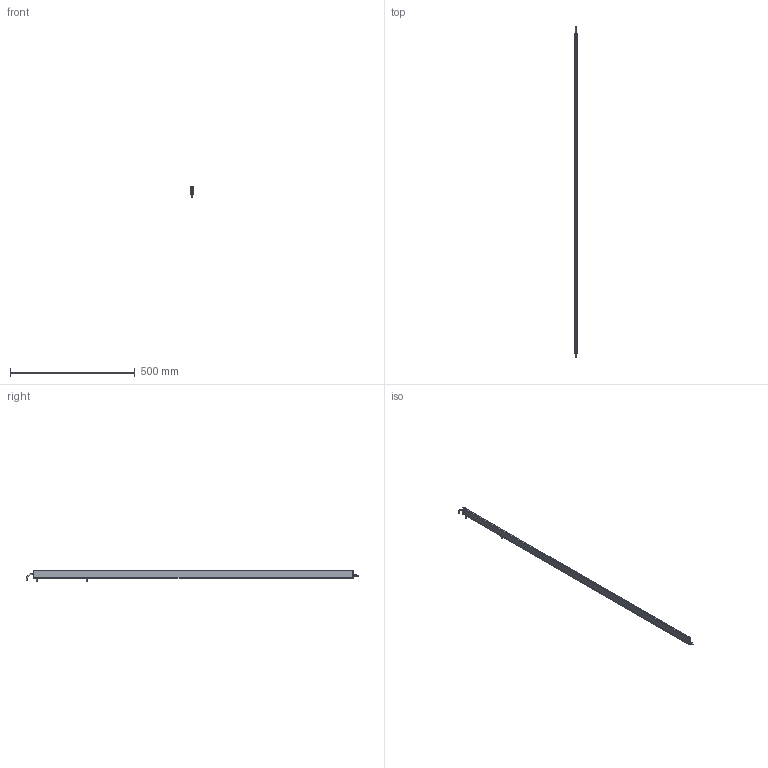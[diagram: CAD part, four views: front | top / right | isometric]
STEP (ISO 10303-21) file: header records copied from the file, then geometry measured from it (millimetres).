
FILE_DESCRIPTION (( 'STEP AP214' ), '1' );
FILE_NAME ('ILG-B-K1-1280mm.STEP', '2017-07-10T12:10:56', ( '' ), ( '' ), 'SwSTEP 2.0', 'SolidWorks 2016', '' );
FILE_SCHEMA (( 'AUTOMOTIVE_DESIGN' ));
Length unit declared in the file: millimetre
Products named in the file (1): ILG-B-K1-1280mm
Bounding box: 9 x 1328.25 x 46.21 mm (x, y, z)
Volume: 144904.5 mm3; surface area: 213068.5 mm2
Topology: 11 solids, 11 shells, 453 faces, 1150 edges, 724 vertices
Faces by surface type: plane 216, cylinder 152, cone 73, torus 12
Entity records: 18769 total; most frequent: CARTESIAN_POINT 2540, DIRECTION 2424, ORIENTED_EDGE 2284, EDGE_CURVE 1142, AXIS2_PLACEMENT_3D 896, VERTEX_POINT 724, LINE 632, VECTOR 632
